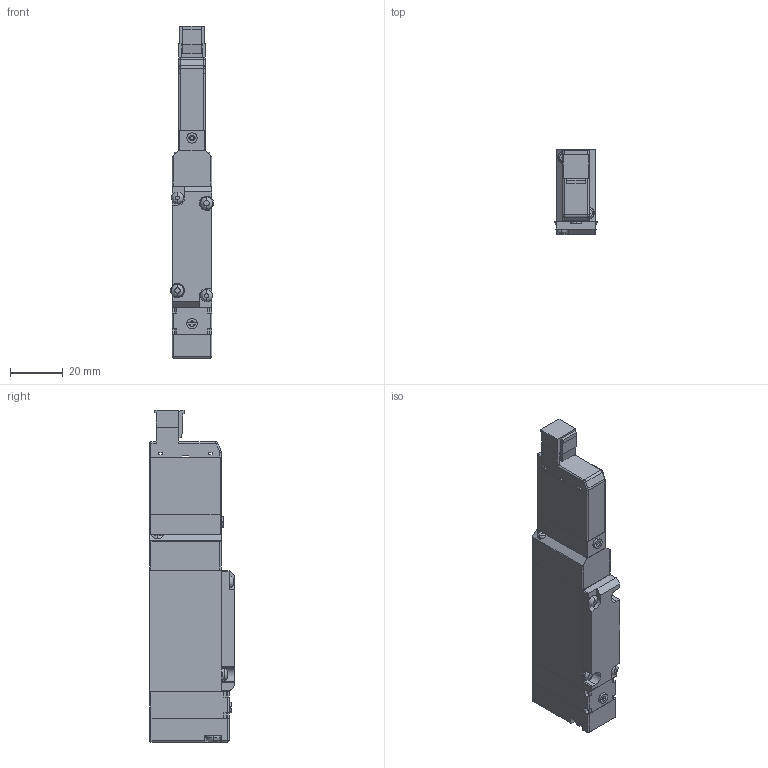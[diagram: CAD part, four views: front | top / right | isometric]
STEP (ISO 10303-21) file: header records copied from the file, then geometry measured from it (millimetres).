
FILE_DESCRIPTION( (''), '2;1');
FILE_NAME ('CVICAD02.3360.F15T2-A1-PS_21687.stp','2021-07-12T19:13:49',(''),(''),'spGate 12.6.6','','');
FILE_SCHEMA (('AUTOMOTIVE_DESIGN'));
Length unit declared in the file: millimetre
Products named in the file (8): Assembly; CVICAD02-prt0; CVICAD02-prt1; CVICAD02-prt2; CVICAD02-prt3; CVICAD02-prt4; CVICAD02-prt5; CVICAD02-prt6
Assembly tree (7 placements, depth 2):
  Assembly
    CVICAD02-prt0
    CVICAD02-prt1
    CVICAD02-prt2
    CVICAD02-prt3
    CVICAD02-prt4
    CVICAD02-prt5
    CVICAD02-prt6
Bounding box: 16.2 x 32 x 125.5 mm (x, y, z)
Volume: 45209 mm3; surface area: 17556.2 mm2
Topology: 7 solids, 7 shells, 337 faces, 876 edges, 559 vertices
Faces by surface type: plane 190, cylinder 114, bspline 28, sphere 5
Entity records: 17732 total; most frequent: CARTESIAN_POINT 2537, ORIENTED_EDGE 1734, DIRECTION 1627, COLOUR_RGB 1211, PRESENTATION_STYLE_ASSIGNMENT 1211, STYLED_ITEM 1211, EDGE_CURVE 867, DRAUGHTING_PRE_DEFINED_CURVE_FONT 867
